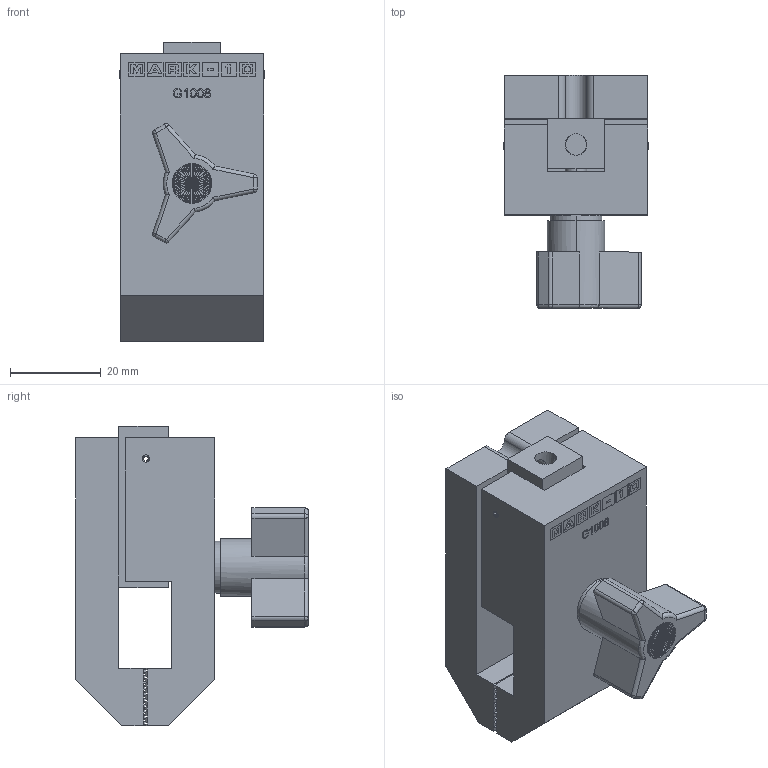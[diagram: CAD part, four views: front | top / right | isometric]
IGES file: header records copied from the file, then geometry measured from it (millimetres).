
Global section: file name: No Iges File Name specified; native system: Autodesk Inventor 2010; preprocessor: AutoDesk Inventor Iges Exporter R2010; author: mlampen; date: 20170419.125059; units: inch
Bounding box: 31.8 x 51.33 x 66.04 mm (x, y, z)
Volume: 54478 mm3; surface area: 18244.4 mm2
Topology: 3 solids, 3 shells, 653 faces, 1650 edges, 1061 vertices
Faces by surface type: plane 491, cylinder 68, revolution 62, bspline 21, sphere 6, torus 3, cone 2
